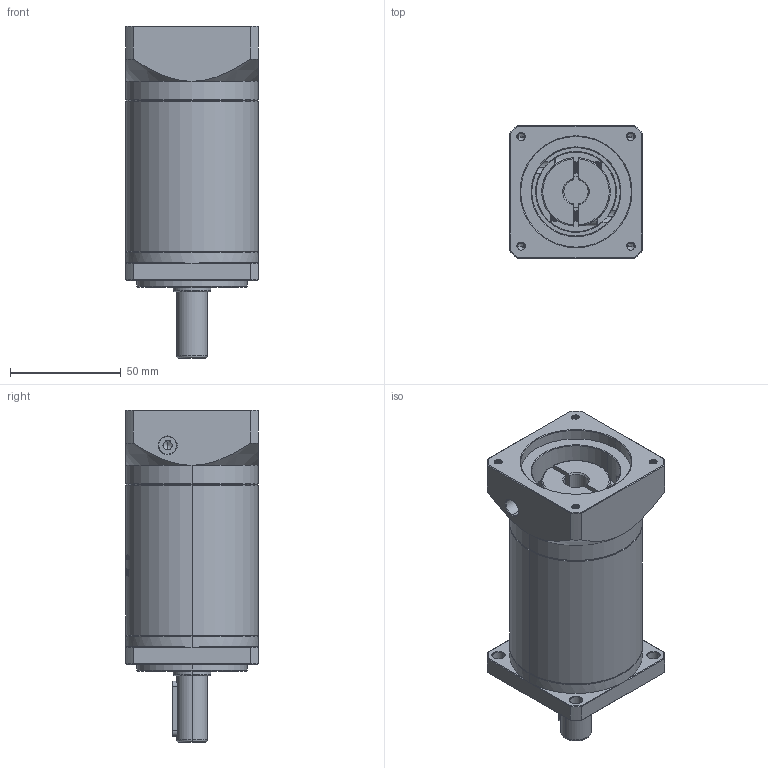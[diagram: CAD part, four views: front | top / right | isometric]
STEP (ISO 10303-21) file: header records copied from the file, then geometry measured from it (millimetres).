
FILE_DESCRIPTION (( 'STEP AP214' ), '1' );
FILE_NAME ('ZF060-D14-L3-P2-11-50-70-M4.step', '2023-08-16T04:24:16', ( '' ), ( '' ), 'SwSTEP 2.0', 'SolidWorks 2016', '' );
FILE_SCHEMA (( 'AUTOMOTIVE_DESIGN' ));
Length unit declared in the file: millimetre
Products named in the file (1): ZF060-D14-L3-P2-11-50-70-M4
Bounding box: 60 x 60 x 150 mm (x, y, z)
Volume: 320565.4 mm3; surface area: 50342.1 mm2
Topology: 6 solids, 6 shells, 1734 faces, 4696 edges, 3045 vertices
Faces by surface type: plane 794, bspline 354, cylinder 332, cone 234, torus 20
Entity records: 96200 total; most frequent: CARTESIAN_POINT 37647, ORIENTED_EDGE 9364, DIRECTION 6707, EDGE_CURVE 4682, VERTEX_POINT 3045, LINE 2371, VECTOR 2371, AXIS2_PLACEMENT_3D 2168
